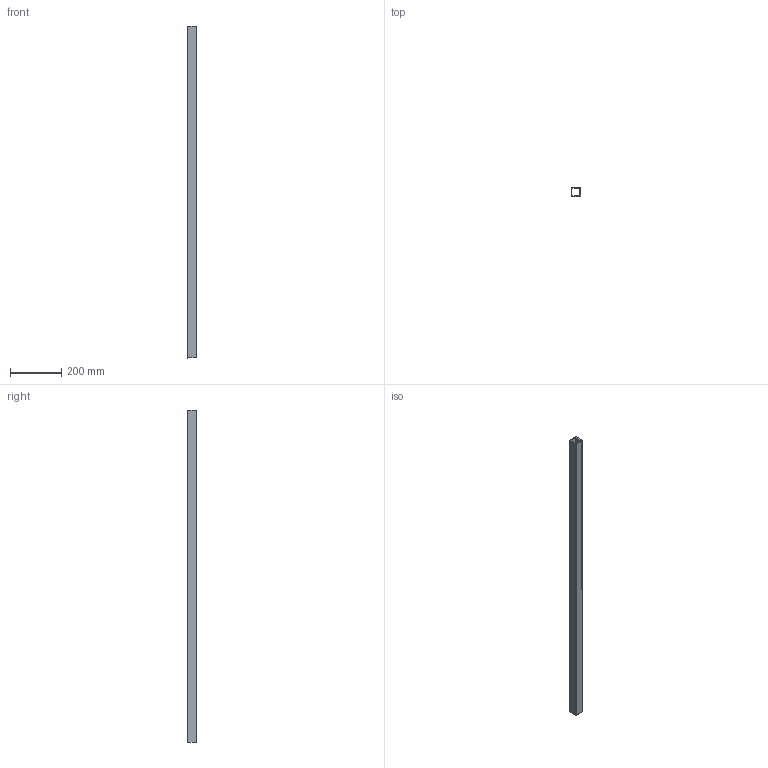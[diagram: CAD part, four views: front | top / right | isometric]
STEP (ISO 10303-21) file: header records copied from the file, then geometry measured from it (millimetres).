
FILE_DESCRIPTION(/* description */ (''),/* implementation_level */ '2;1');
FILE_NAME(/* name */ 'GL0305040101-A(四方管R1).stp',/* time_stamp */ '2026-09-24T14:08:52+08:00',/* author */ (''),/* organization */ (''),/* preprocessor_version */ 'ST-DEVELOPER v16.7',/* originating_system */ 'SIEMENS PLM Software NX 12.0',/* authorisation */ '');
FILE_SCHEMA (('AUTOMOTIVE_DESIGN { 1 0 10303 214 3 1 1 1 }'));
Length unit declared in the file: millimetre
Products named in the file (1): F2D091BFuu7p
Bounding box: 36 x 36 x 1296.2 mm (x, y, z)
Volume: 452149.7 mm3; surface area: 343596.2 mm2
Topology: 1 solids, 1 shells, 74 faces, 196 edges, 144 vertices
Faces by surface type: cylinder 44, plane 30
Full cylindrical faces by diameter (mm): 11.55 x16, 16 x4, 20.05 x16, 25 x4
Entity records: 1944 total; most frequent: DIRECTION 354, CARTESIAN_POINT 295, ORIENTED_EDGE 232, EDGE_LOOP 176, FACE_BOUND 166, AXIS2_PLACEMENT_3D 163, EDGE_CURVE 116, VERTEX_POINT 104
